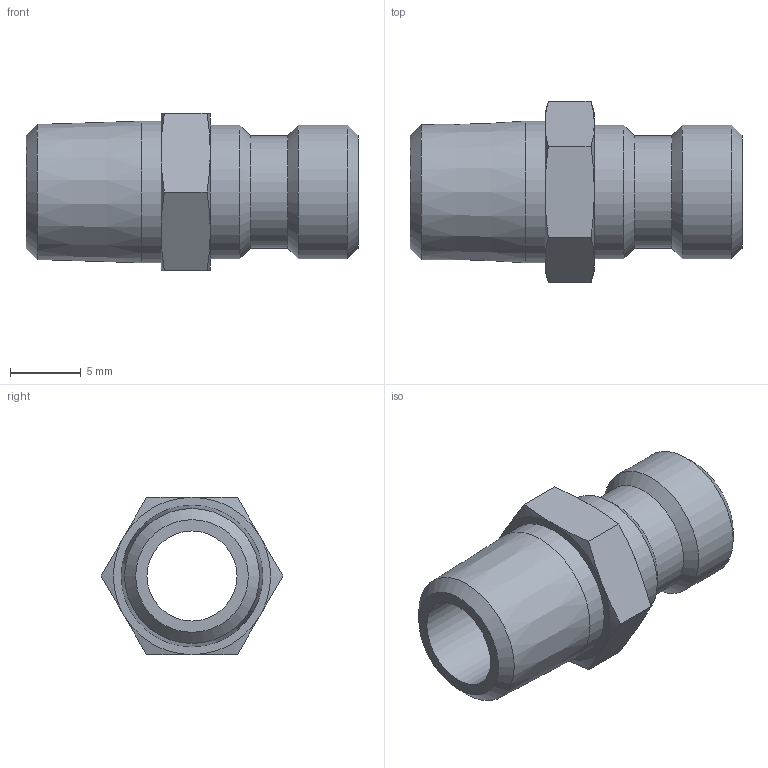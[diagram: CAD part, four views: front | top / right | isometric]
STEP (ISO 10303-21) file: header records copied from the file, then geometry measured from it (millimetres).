
FILE_DESCRIPTION(/* description */ ('STEP AP214'),/* implementation_level */ '2;1');
FILE_NAME(/* name */ 'JP-251',/* time_stamp */ '2024-12-19T08:34:52+01:00',/* author */ ('License CC BY-ND 4.0'),/* organization */ ('CADENAS'),/* preprocessor_version */ 'ST-DEVELOPER v19.3',/* originating_system */ 'PARTsolutions',/* authorisation */ ' ');
FILE_SCHEMA (('AUTOMOTIVE_DESIGN {1 0 10303 214 3 1 1}'));
Length unit declared in the file: inch
Products named in the file (1): JP-251
Bounding box: 23.42 x 12.82 x 11.1 mm (x, y, z)
Volume: 985.8 mm3; surface area: 1312.8 mm2
Topology: 1 solids, 1 shells, 32 faces, 65 edges, 37 vertices
Faces by surface type: cone 17, plane 10, cylinder 5
Full cylindrical faces by diameter (mm): 6.35 x1, 7.937 x1, 9.449 x2, 9.985 x1
Entity records: 832 total; most frequent: CARTESIAN_POINT 197, DIRECTION 122, ORIENTED_EDGE 110, AXIS2_PLACEMENT_3D 58, EDGE_CURVE 55, EDGE_LOOP 46, FACE_BOUND 46, VERTEX_POINT 37
